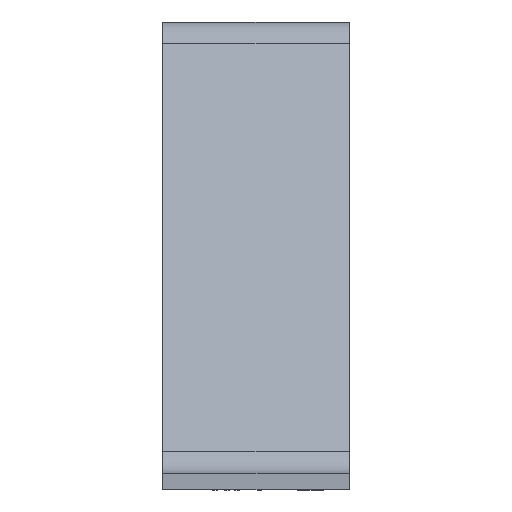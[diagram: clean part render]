
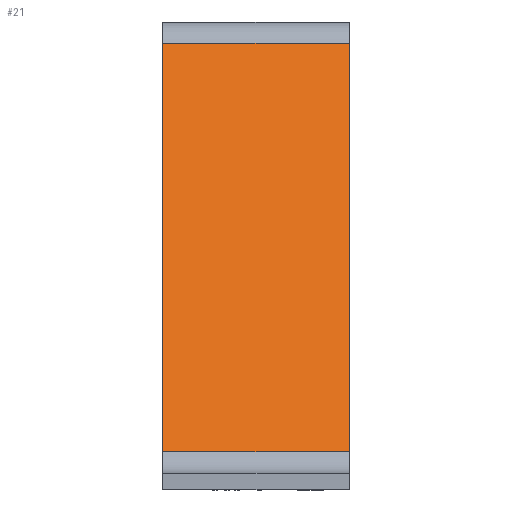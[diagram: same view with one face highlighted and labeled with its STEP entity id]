
A CAD part, left-side view. The second image highlights one B-rep face of the part: STEP entity #21.
In plain terms, the highlighted planar face has unit normal (-0.927, 0, 0.374).
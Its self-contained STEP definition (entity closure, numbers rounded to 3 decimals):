
#21=ADVANCED_FACE('',(#52),#529,.T.);
#52=FACE_OUTER_BOUND('',#83,.T.);
#83=EDGE_LOOP('',(#123,#124,#125,#126));
#123=ORIENTED_EDGE('',*,*,#297,.T.);
#124=ORIENTED_EDGE('',*,*,#298,.T.);
#125=ORIENTED_EDGE('',*,*,#299,.F.);
#126=ORIENTED_EDGE('',*,*,#294,.F.);
#294=EDGE_CURVE('',#468,#469,#390,.T.);
#297=EDGE_CURVE('',#468,#471,#393,.T.);
#298=EDGE_CURVE('',#471,#472,#394,.T.);
#299=EDGE_CURVE('',#469,#472,#395,.T.);
#390=(
BOUNDED_CURVE()
B_SPLINE_CURVE(1,(#897,#898),.UNSPECIFIED.,.F.,.F.)
B_SPLINE_CURVE_WITH_KNOTS((2,2),(0.,22.),.UNSPECIFIED.)
CURVE()
GEOMETRIC_REPRESENTATION_ITEM()
RATIONAL_B_SPLINE_CURVE((1.,1.))
REPRESENTATION_ITEM('')
);
#393=(
BOUNDED_CURVE()
B_SPLINE_CURVE(3,(#905,#906,#907,#908),.UNSPECIFIED.,.F.,.F.)
B_SPLINE_CURVE_WITH_KNOTS((4,4),(2.375,54.274),
 .UNSPECIFIED.)
CURVE()
GEOMETRIC_REPRESENTATION_ITEM()
RATIONAL_B_SPLINE_CURVE((1.,1.,1.,1.))
REPRESENTATION_ITEM('')
);
#394=(
BOUNDED_CURVE()
B_SPLINE_CURVE(1,(#909,#910),.UNSPECIFIED.,.F.,.F.)
B_SPLINE_CURVE_WITH_KNOTS((2,2),(0.,22.),.UNSPECIFIED.)
CURVE()
GEOMETRIC_REPRESENTATION_ITEM()
RATIONAL_B_SPLINE_CURVE((1.,1.))
REPRESENTATION_ITEM('')
);
#395=(
BOUNDED_CURVE()
B_SPLINE_CURVE(3,(#911,#912,#913,#914),.UNSPECIFIED.,.F.,.F.)
B_SPLINE_CURVE_WITH_KNOTS((4,4),(2.375,54.274),
 .UNSPECIFIED.)
CURVE()
GEOMETRIC_REPRESENTATION_ITEM()
RATIONAL_B_SPLINE_CURVE((1.,1.,1.,1.))
REPRESENTATION_ITEM('')
);
#468=VERTEX_POINT('',#836);
#469=VERTEX_POINT('',#837);
#471=VERTEX_POINT('',#839);
#472=VERTEX_POINT('',#840);
#529=PLANE('',#645);
#645=AXIS2_PLACEMENT_3D('',#705,#675,$);
#675=DIRECTION('',(-0.928,0.,0.374));
#705=CARTESIAN_POINT('',(-19.86,11.,-0.505));
#836=CARTESIAN_POINT('',(-19.86,11.,-0.505));
#837=CARTESIAN_POINT('',(-19.86,-11.,-0.505));
#839=CARTESIAN_POINT('',(-39.259,11.,-48.642));
#840=CARTESIAN_POINT('',(-39.259,-11.,-48.642));
#897=CARTESIAN_POINT('',(-19.86,11.,-0.505));
#898=CARTESIAN_POINT('',(-19.86,-11.,-0.505));
#905=CARTESIAN_POINT('',(-19.86,11.,-0.505));
#906=CARTESIAN_POINT('',(-26.326,11.,-16.55));
#907=CARTESIAN_POINT('',(-32.792,11.,-32.596));
#908=CARTESIAN_POINT('',(-39.259,11.,-48.642));
#909=CARTESIAN_POINT('',(-39.259,11.,-48.642));
#910=CARTESIAN_POINT('',(-39.259,-11.,-48.642));
#911=CARTESIAN_POINT('',(-19.86,-11.,-0.505));
#912=CARTESIAN_POINT('',(-26.326,-11.,-16.55));
#913=CARTESIAN_POINT('',(-32.792,-11.,-32.596));
#914=CARTESIAN_POINT('',(-39.259,-11.,-48.642));
